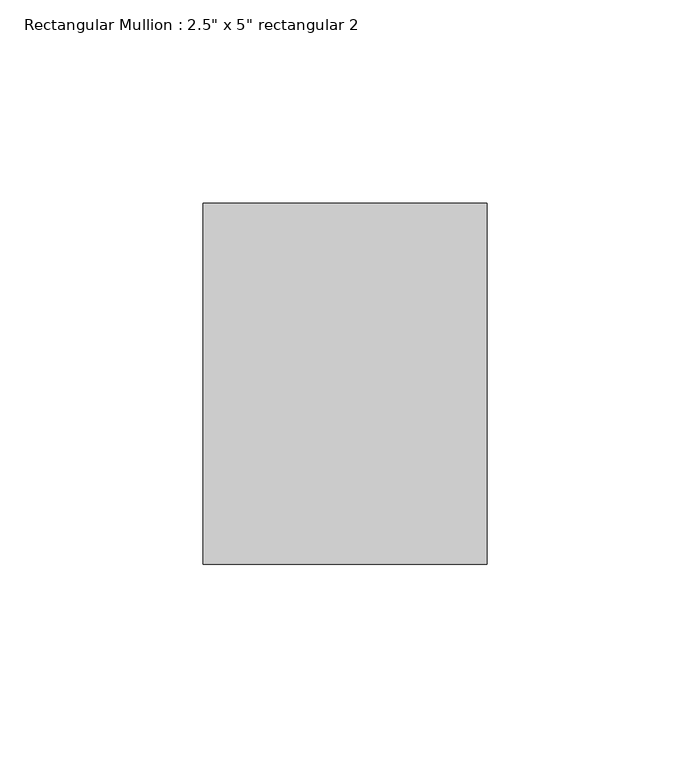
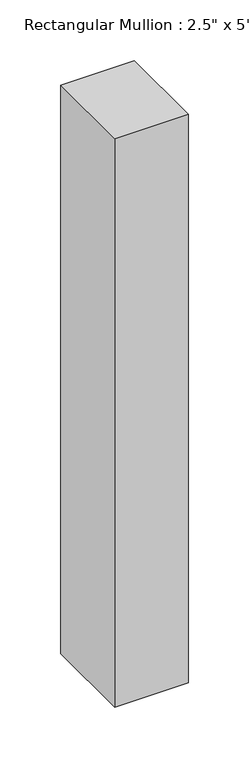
"""IFC4 building model written with IfcOpenShell, lengths in millimetres: member geometry."""

from ifc_helpers import new_model, si_unit, frame, origin, place, context, project, spatial, polyline, outline, extrude, source, transform, mapped, element, save


def member_f5f536f5(model_context):
    return source(origin(), model_context, "Body", "SweptSolid", [
        extrude(outline(polyline([(0.0, 44.45), (0.0, -44.45), (-69.85, -44.45), (-69.85, 44.45), (0.0, 44.45)])), frame((0.0, 0.0, -571.5), z_axis=(0.0, 0.0, 1.0), x_axis=(1.0, 0.0, 0.0)), (0.0, 0.0, 1.0), 571.5),
    ])


if __name__ == "__main__":
    model = new_model("IFC4")
    model_context = context("Model", 3, world=origin())
    ifc_project = project(units=[si_unit("LENGTHUNIT", "METRE", prefix="MILLI")], contexts=[model_context])
    site = spatial("IfcSite", under=ifc_project)
    building = spatial("IfcBuilding", under=site)
    placement = place(None, origin())
    member_shape = member_f5f536f5(model_context)
    element("IfcMember", 1, ObjectType="Rectangular Mullion : 2.5\" x 5\" rectangular 2", at=placement, inside=building, context=model_context, shape_type="MappedRepresentation", body=[
        mapped(member_shape, transform((0.0, 0.0, 0.0), x_axis=(1.0, 0.0, 0.0), y_axis=(0.0, 1.0, 0.0), z_axis=(0.0, 0.0, 1.0))),
    ])
    save(model, "model.ifc")
